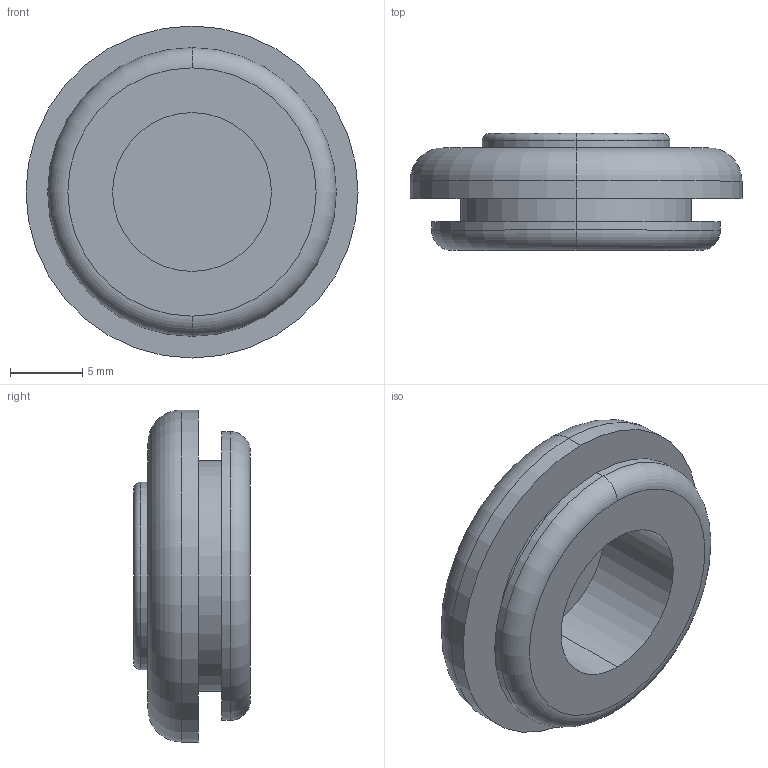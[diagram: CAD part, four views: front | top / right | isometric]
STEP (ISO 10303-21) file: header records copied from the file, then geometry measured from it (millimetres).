
FILE_DESCRIPTION (( 'STEP AP203' ), '1' );
FILE_NAME ('SG-16A.STEP', '2013-07-14T01:39:22', ( 'SDS' ), ( 'SDS' ), 'SwSTEP 2.0', 'SolidWorks 2002296', '' );
FILE_SCHEMA (( 'CONFIG_CONTROL_DESIGN' ));
Length unit declared in the file: millimetre
Products named in the file (1): SG-16A
Bounding box: 23 x 8.1 x 23 mm (x, y, z)
Volume: 1699 mm3; surface area: 1701.9 mm2
Topology: 1 solids, 1 shells, 25 faces, 48 edges, 30 vertices
Faces by surface type: cylinder 12, plane 7, torus 6
Entity records: 727 total; most frequent: DIRECTION 136, CARTESIAN_POINT 104, ORIENTED_EDGE 96, AXIS2_PLACEMENT_3D 62, EDGE_CURVE 48, CIRCLE 36, EDGE_LOOP 30, VERTEX_POINT 30
